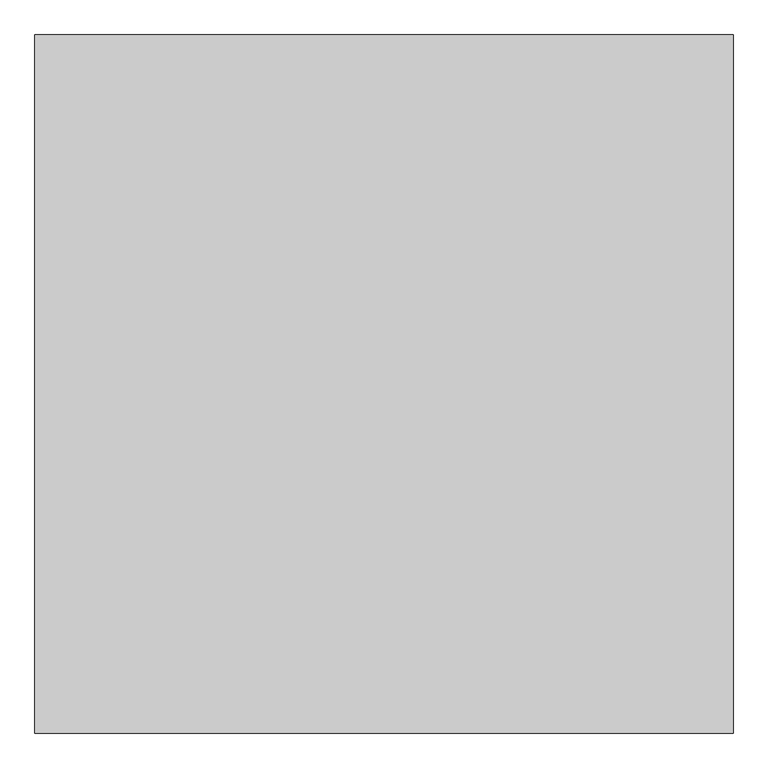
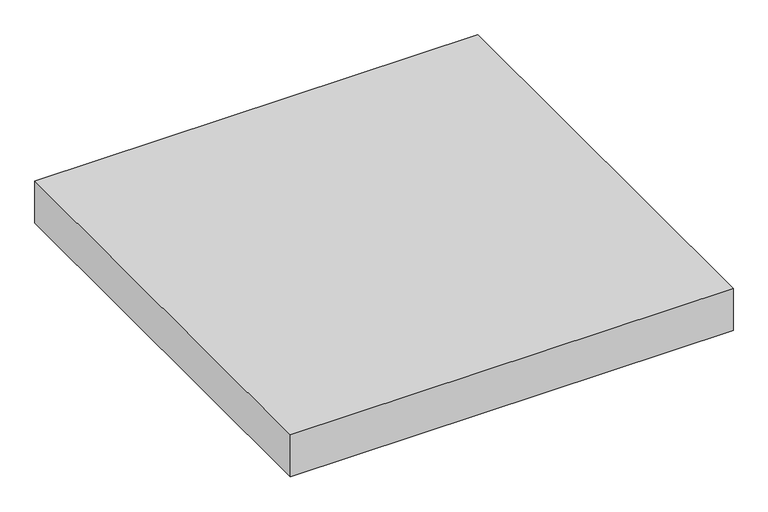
"""IFC4 building model written with IfcOpenShell, lengths in millimetres: proxy geometry, Modelos genéricos 10 : Modelos genéricos 1."""

import ifcopenshell
import ifcopenshell.guid

model = None  # the IFC model being written
_history = None  # IfcOwnerHistory: only IFC2X3 demands one
_inside = {}  # id of a spatial element -> (the spatial element, [elements in it])
_under = {}  # id of a project, library or spatial element -> (it, [spatial elements below it])
_declared = {}  # id of a project -> (the project, [libraries it declares])
_typed = {}  # id of a type object -> (the type object, [elements of that type])
_made_of = {}  # id of a material, layer set ... -> (it, [elements and type objects made of it])


def new_model(schema):
    """Start an empty IFC model of exactly this schema.

    Asked for "IFC4X3", IfcOpenShell would pick the latest addendum, in which some entities
    have other attributes; the version numbers below select the first issue.
    IFC2X3 requires an IfcOwnerHistory on every rooted entity: one is made here for all.
    """
    global model, _history
    if schema == "IFC4X3":
        model = ifcopenshell.file(schema_version=(4, 3, 0, 0))
    else:
        model = ifcopenshell.file(schema=schema)
    _inside.clear()
    _under.clear()
    _declared.clear()
    _typed.clear()
    _made_of.clear()
    _history = None
    if model.schema == "IFC2X3":
        org = make("IfcOrganization", Name="unknown")
        user = make(
            "IfcPersonAndOrganization",
            ThePerson=make("IfcPerson", FamilyName="unknown"),
            TheOrganization=org,
        )
        app = make(
            "IfcApplication",
            ApplicationDeveloper=org,
            Version="unknown",
            ApplicationFullName="unknown",
            ApplicationIdentifier="unknown",
        )
        _history = make(
            "IfcOwnerHistory",
            OwningUser=user,
            OwningApplication=app,
            ChangeAction="ADDED",
            CreationDate=0,
        )
    return model


def make(cls, **values):
    """One entity of the class cls with the attributes given. An attribute that is None is left unset."""
    return model.create_entity(
        cls, **{name: value for name, value in values.items() if value is not None}
    )


def rooted(cls, **values):
    """An entity with a GlobalId (a new one), such as an element, a storey or a relation."""
    return make(cls, GlobalId=ifcopenshell.guid.new(), OwnerHistory=_history, **values)


def si_unit(unit_type, name, prefix=None):
    """IfcSIUnit, for example si_unit("LENGTHUNIT", "METRE", prefix="MILLI")."""
    return make("IfcSIUnit", UnitType=unit_type, Prefix=prefix, Name=name)


def assignment(units):
    """IfcUnitAssignment: the units of a project."""
    return None if units is None else make("IfcUnitAssignment", Units=units)


def point(xyz):
    """IfcCartesianPoint."""
    return None if xyz is None else make("IfcCartesianPoint", Coordinates=xyz)


def direction(xyz):
    """IfcDirection."""
    return None if xyz is None else make("IfcDirection", DirectionRatios=xyz)


def frame(location, z_axis=None, x_axis=None):
    """IfcAxis2Placement3D, a coordinate frame: its origin and axes. An axis left out is left unset."""
    return make(
        "IfcAxis2Placement3D",
        Location=point(location),
        Axis=direction(z_axis),
        RefDirection=direction(x_axis),
    )


def origin():
    """The frame at (0, 0, 0) with its axes left unset."""
    return frame((0.0, 0.0, 0.0))


def origin_with_axes():
    """The frame at (0, 0, 0) with the z axis (0, 0, 1) and the x axis (1, 0, 0) written out."""
    return frame((0.0, 0.0, 0.0), z_axis=(0.0, 0.0, 1.0), x_axis=(1.0, 0.0, 0.0))


def place(relative_to, where):
    """IfcLocalPlacement: puts the frame where relative to a parent placement (None: the world)."""
    return make(
        "IfcLocalPlacement", PlacementRelTo=relative_to, RelativePlacement=where
    )


def context(
    kind, dimensions, precision=None, world=None, true_north=None, identifier=None
):
    """IfcGeometricRepresentationContext, for example the 3D "Model" context."""
    return make(
        "IfcGeometricRepresentationContext",
        ContextIdentifier=identifier,
        ContextType=kind,
        CoordinateSpaceDimension=dimensions,
        Precision=precision,
        WorldCoordinateSystem=world,
        TrueNorth=true_north,
    )


def project(units=None, contexts=None):
    """IfcProject with its units and contexts."""
    return rooted(
        "IfcProject",
        Name="project",
        RepresentationContexts=contexts,
        UnitsInContext=assignment(units),
    )


def spatial(cls, under=None, at=None, **own):
    """A site, building, storey or space (cls), placed at a placement, below another one or the project."""
    s = rooted(cls, ObjectPlacement=at, **own)
    if under is not None:
        _under.setdefault(under.id(), (under, []))[1].append(s)
    return s


def polyline(points):
    """IfcPolyline through the points."""
    return make("IfcPolyline", Points=[point(p) for p in points])


def outline(outer, holes=None, kind="AREA"):
    """IfcArbitraryClosedProfileDef: a profile drawn as a closed curve; with holes, ...WithVoids."""
    if holes is None:
        return make("IfcArbitraryClosedProfileDef", ProfileType=kind, OuterCurve=outer)
    return make(
        "IfcArbitraryProfileDefWithVoids",
        ProfileType=kind,
        OuterCurve=outer,
        InnerCurves=holes,
    )


def extrude(swept, where, along, depth):
    """IfcExtrudedAreaSolid: the profile swept, set in the frame where, extruded along a direction by depth."""
    return make(
        "IfcExtrudedAreaSolid",
        SweptArea=swept,
        Position=where,
        ExtrudedDirection=direction(along),
        Depth=depth,
    )


def shape(context_of_items, identifier, shape_type, items):
    """IfcShapeRepresentation: the items that make up one representation, for example the "Body"."""
    return make(
        "IfcShapeRepresentation",
        ContextOfItems=context_of_items,
        RepresentationIdentifier=identifier,
        RepresentationType=shape_type,
        Items=items,
    )


def source(mapping_origin, context_of_items, identifier, shape_type, items):
    """IfcRepresentationMap: a shape defined once, which mapped items show again and again."""
    return make(
        "IfcRepresentationMap",
        MappingOrigin=mapping_origin,
        MappedRepresentation=shape(context_of_items, identifier, shape_type, items),
    )


def transform(
    local_origin,
    x_axis=None,
    y_axis=None,
    z_axis=None,
    scale=None,
    scale2=None,
    scale3=None,
    uniform=True,
):
    """IfcCartesianTransformationOperator3D, or its non-uniform kind. x_axis, y_axis, z_axis: its Axis1, 2, 3."""
    if uniform:
        return make(
            "IfcCartesianTransformationOperator3D",
            Axis1=direction(x_axis),
            Axis2=direction(y_axis),
            LocalOrigin=point(local_origin),
            Scale=scale,
            Axis3=direction(z_axis),
        )
    return make(
        "IfcCartesianTransformationOperator3DnonUniform",
        Axis1=direction(x_axis),
        Axis2=direction(y_axis),
        LocalOrigin=point(local_origin),
        Scale=scale,
        Axis3=direction(z_axis),
        Scale2=scale2,
        Scale3=scale3,
    )


def mapped(mapping_source, mapping_target):
    """IfcMappedItem: shows the shape of a source again, moved by a transform."""
    return make(
        "IfcMappedItem", MappingSource=mapping_source, MappingTarget=mapping_target
    )


def made_of(thing, what):
    """Note that an element or type object is made of a material, layer set ...; save() writes the relation."""
    if what is not None:
        _made_of.setdefault(what.id(), (what, []))[1].append(thing)
    return thing


def element(
    cls,
    number,
    at=None,
    inside=None,
    cuts=None,
    type_object=None,
    material=None,
    context=None,
    identifier="Body",
    shape_type=None,
    held_by="IfcProductDefinitionShape",
    body=None,
    shapes=None,
    **own,
):
    """One element of the class cls, such as IfcWall. Its Tag is "e" and its number.

    at: its placement. inside: the storey or other place that contains it. cuts: it is an
    opening in that element (IfcRelVoidsElement). A single representation is given by context,
    identifier, shape_type and body (its items); several are given by shapes. held_by: the class
    of the entity that holds the representations. save() writes the other relations.
    """
    e = rooted(cls, Tag="e%d" % number, ObjectPlacement=at, **own)
    if body is not None:
        shapes = [shape(context, identifier, shape_type, body)]
    if shapes is not None:
        e.Representation = make(held_by, Representations=shapes)
    if inside is not None:
        _inside.setdefault(inside.id(), (inside, []))[1].append(e)
    if cuts is not None:
        rooted(
            "IfcRelVoidsElement", RelatingBuildingElement=cuts, RelatedOpeningElement=e
        )
    if type_object is not None:
        _typed.setdefault(type_object.id(), (type_object, []))[1].append(e)
    return made_of(e, material)


def aggregate(whole, parts):
    """IfcRelAggregates: a whole, such as a stair, and the parts it consists of."""
    return rooted("IfcRelAggregates", RelatingObject=whole, RelatedObjects=parts)


def save(model, path):
    """Write the relations noted so far, then the file.

    IfcRelAggregates (storeys below a building ...), IfcRelContainedInSpatialStructure (elements
    in a storey), IfcRelDefinesByType, IfcRelAssociatesMaterial and IfcRelDeclares: one each for
    every whole, place, type object, material and project.
    """
    for whole, parts in _under.values():
        aggregate(whole, parts)
    for where, things in _inside.values():
        rooted(
            "IfcRelContainedInSpatialStructure",
            RelatedElements=things,
            RelatingStructure=where,
        )
    for kind, things in _typed.values():
        rooted("IfcRelDefinesByType", RelatedObjects=things, RelatingType=kind)
    for what, things in _made_of.values():
        rooted("IfcRelAssociatesMaterial", RelatedObjects=things, RelatingMaterial=what)
    for by, libraries in _declared.values():
        rooted("IfcRelDeclares", RelatingContext=by, RelatedDefinitions=libraries)
    model.write(path)


def generic_models_e74df339(model_context):
    return source(origin(), model_context, "Body", "SweptSolid", [
        extrude(outline(polyline([(-14225.6026359, -11045.712814), (-14225.6026359, -12545.712814), (-15725.6026359, -12545.712814), (-15725.6026359, -11045.712814), (-14225.6026359, -11045.712814)])), origin_with_axes(), (0.0, 0.0, 1.0), 150.0),
    ])


if __name__ == "__main__":
    model = new_model("IFC4")
    model_context = context("Model", 3, world=origin())
    ifc_project = project(units=[si_unit("LENGTHUNIT", "METRE", prefix="MILLI")], contexts=[model_context])
    site = spatial("IfcSite", under=ifc_project)
    building = spatial("IfcBuilding", under=site)
    placement = place(None, origin())
    generic_models_shape = generic_models_e74df339(model_context)
    element("IfcBuildingElementProxy", 1, Name="Modelos genéricos 10 : Modelos genéricos 1", ObjectType="Modelos genéricos 10 : Modelos genéricos 1", at=placement, inside=building, context=model_context, shape_type="MappedRepresentation", body=[
        mapped(generic_models_shape, transform((0.0, 0.0, 0.0), x_axis=(1.0, 0.0, 0.0), y_axis=(0.0, 1.0, 0.0), z_axis=(0.0, 0.0, 1.0))),
    ])
    save(model, "model.ifc")
